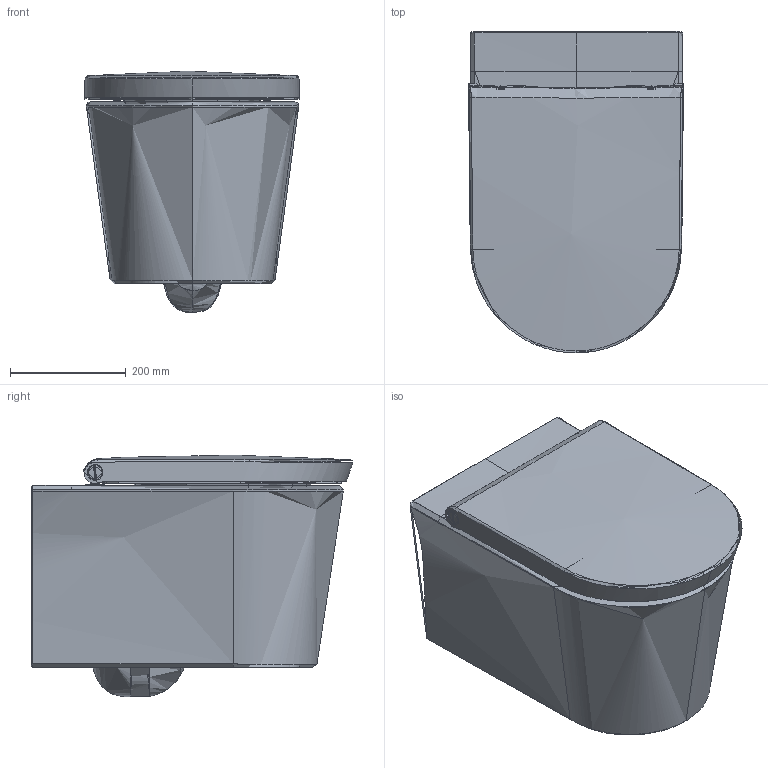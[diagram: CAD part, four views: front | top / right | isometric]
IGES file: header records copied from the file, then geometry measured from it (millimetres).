
Global section: file name: d:\users\matthias.isele\Desktop\planungsdaten_erstellen\Keramik\White_Tulip\rhino\257609\257609.igs; native system: Rhinoceros ( Sep 13 2016 ); preprocessor: Trout Lake IGES 012 Sep 13 2016; date: 210621.140443; units: millimetre
Bounding box: 371.96 x 556.77 x 418.18 mm (x, y, z)
Surface area: 2145570 mm2 (no closed solid volume)
Topology: 0 solids, 0 shells, 2840 faces, 29004 edges, 28862 vertices
Faces by surface type: bspline 2840
